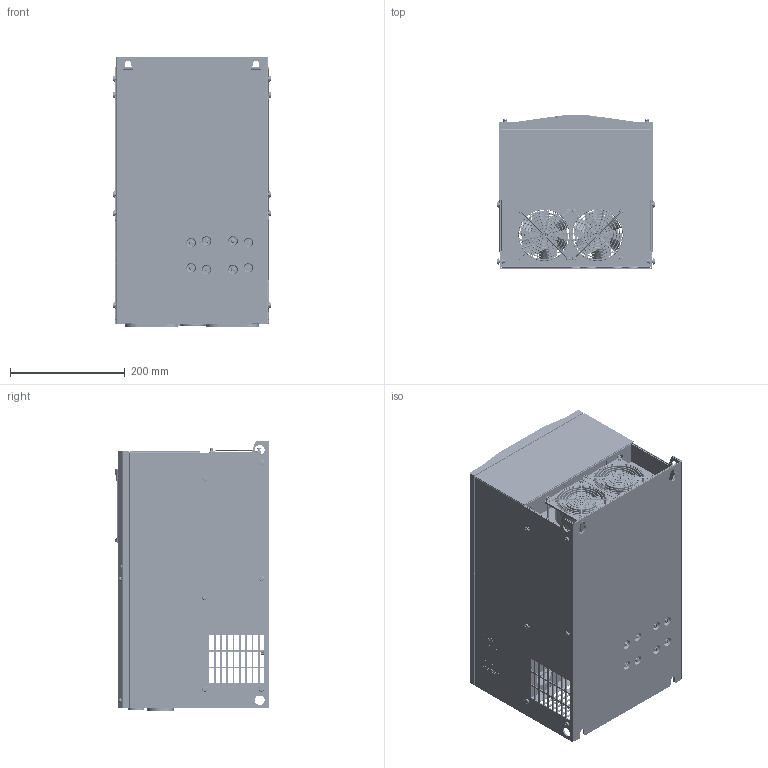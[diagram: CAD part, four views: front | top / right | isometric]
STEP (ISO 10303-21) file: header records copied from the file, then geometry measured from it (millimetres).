
FILE_DESCRIPTION((''),'2;1');
FILE_NAME('T6_ASM','2024-03-28T13:25:16',('dyliuk'),(''),'CREO PARAMETRIC BY PTC INC, 2020044','CREO PARAMETRIC BY PTC INC, 2020044','');
FILE_SCHEMA(('CONFIG_CONTROL_DESIGN','SHAPE_APPEARANCE_LAYERS_GROUPS'));
Products named in the file (93): 8050V1601_1_1; 8040V1601_1_1; S-M4-2_1_1; 5040V1601_ASM_1_ASM_1_ASM; 8040V1603_1_1; 5040V1603_ASM_1_ASM_1_ASM; 8040V1620_1_1; 5040V1627_ASM_1_ASM_1_ASM; 5050V1601_ASM_1_ASM_1_ASM; 8050V1602_1_1; 8040V1602_1_1; 5040V1602_ASM_1_ASM_1_ASM; 8040V1619_1_1; 5040V1626_ASM_1_ASM_1_ASM; 5050V1602_ASM_1_ASM_1_ASM; 8050V1604_1_1; 5050V1603_ASM_1_ASM_1_ASM; 8050V1603_1_1; 5005V1601_ASM_1_ASM_1_ASM; 8055V1601_1_1; S-M5-2_1_2; 5055V1601_ASM_1_ASM_1_ASM; 8062V1601_1_1_1; 8062V1601_1_2_1; 8062V1601_1_ASM_1_ASM; SOO-M4-17-ZT_1_1; TPS-3-6_1_1; 8062V1602_1_1; SOOS-M4-5-ZI_1_1; 5062V1601_ASM_1_ASM_1_ASM; 5022V1601_ASM_1_ASM_1_ASM; 8325V1601_1_1; 5325V1601_ASM_5_ASM_1_ASM; 8315V1601_1_1; 8130V1601_1_1; 8130V1602_1_1; 5315V1601_ASM_1_ASM_1_ASM; 8315V1602_1_1; 8130V1604_1_1; 8130V1603_1_1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
Assembly tree (187 placements, depth 7):
  T6_ASM
    NVF6-37T_ASM_4_ASM_1_ASM
      5355V1601_ASM_5_ASM_1_ASM
        5005V1601_ASM_1_ASM_1_ASM
          5050V1601_ASM_1_ASM_1_ASM
            8050V1601_1_1
            5040V1601_ASM_1_ASM_1_ASM  x2
              8040V1601_1_1
              S-M4-2_1_1
            5040V1603_ASM_1_ASM_1_ASM
              8040V1603_1_1
              S-M4-2_1_1
            5040V1627_ASM_1_ASM_1_ASM
              8040V1620_1_1
              S-M4-2_1_1  x2
          5050V1602_ASM_1_ASM_1_ASM
            8050V1602_1_1
            5040V1602_ASM_1_ASM_1_ASM
              8040V1602_1_1
              S-M4-2_1_1  x2
            5040V1601_ASM_1_ASM_1_ASM  x2
              8040V1601_1_1
              S-M4-2_1_1
            5040V1626_ASM_1_ASM_1_ASM
              8040V1619_1_1
              S-M4-2_1_1  x2
          5050V1603_ASM_1_ASM_1_ASM
            8050V1604_1_1
            S-M4-2_1_1  x2
          8050V1603_1_1
        5022V1601_ASM_1_ASM_1_ASM
          5055V1601_ASM_1_ASM_1_ASM
            8055V1601_1_1
            S-M5-2_1_2  x8
          5062V1601_ASM_1_ASM_1_ASM
            8062V1601_1_ASM_1_ASM
              8062V1601_1_1_1
              8062V1601_1_2_1
            SOO-M4-17-ZT_1_1  x4
            TPS-3-6_1_1
            8062V1602_1_1
            SOOS-M4-5-ZI_1_1  x8
        5325V1601_ASM_5_ASM_1_ASM
          8325V1601_1_1
          S-M4-2_1_1  x4
          S-M5-2_1_2  x4
        5315V1601_ASM_1_ASM_1_ASM
          8315V1601_1_1
          8130V1601_1_1
          8130V1602_1_1
          TPS-3-6_1_1  x2
        5315V1602_ASM_1_ASM_1_ASM
          8315V1602_1_1
          8130V1604_1_1
          8130V1603_1_1
        5048V1601_ASM_1_ASM_1_ASM
          8048V1601_1_1
          S-M4-2_1_1  x6
        5048V1602_ASM_1_ASM_1_ASM
          8048V1602_1_1
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Bounding box: 277 x 268.04 x 471.51 mm (x, y, z)
Volume: 3309166.4 mm3; surface area: 4361731.5 mm2
Topology: 173 solids, 182 shells, 13172 faces, 35930 edges, 23626 vertices
Faces by surface type: plane 10209, cylinder 2079, torus 524, bspline 152, extrusion 130, cone 68, sphere 6, revolution 4
Entity records: 249464 total; most frequent: CARTESIAN_POINT 48516, ORIENTED_EDGE 33744, DIRECTION 32317, EDGE_CURVE 16925, VECTOR 12973, LINE 12843, VERTEX_POINT 11075, AXIS2_PLACEMENT_3D 9670
